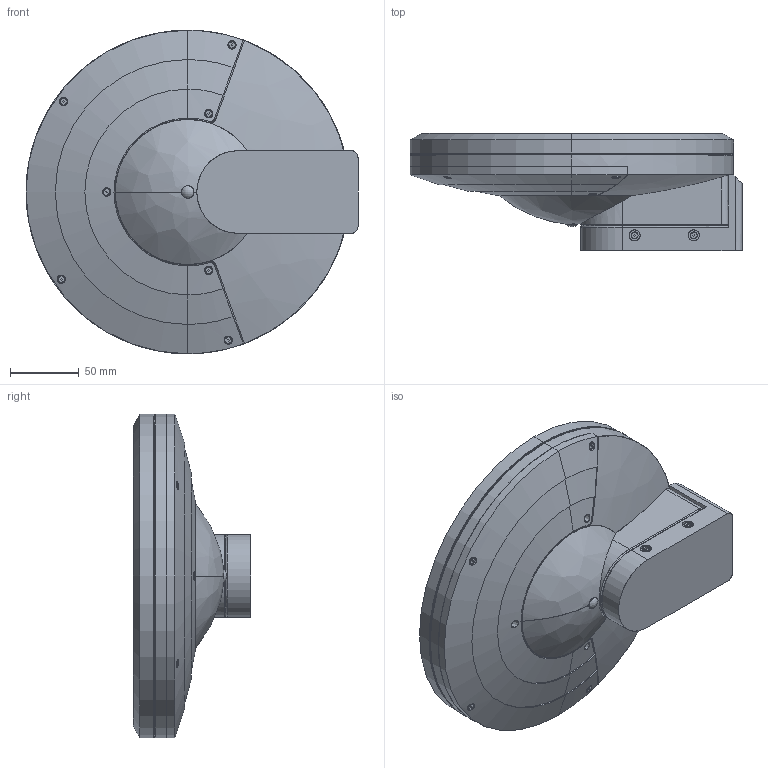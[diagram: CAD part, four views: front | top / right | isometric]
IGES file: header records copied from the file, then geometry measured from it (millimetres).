
Start section: SolidWorks IGES file using analytic representation for surfaces
Global section: file name: C:\Users\danielet\Desktop\ISMAIL\EXCEL\GLOSS-AS2074000-3D\GLOSS-AS2074000-3D.IGS; native system: SolidWorks 2018; preprocessor: SolidWorks 2018; author: danielet; date: 230323.132953; units: millimetre
Bounding box: 241.11 x 85 x 235 mm (x, y, z)
Surface area: 199525.8 mm2 (no closed solid volume)
Topology: 0 solids, 0 shells, 552 faces, 10530 edges, 10526 vertices
Faces by surface type: bspline 283, revolution 269
